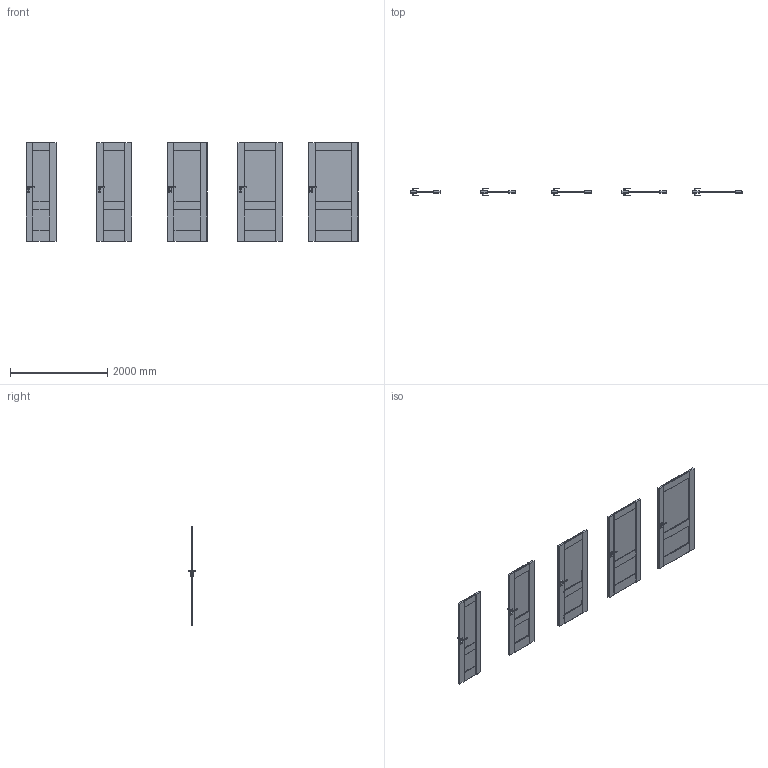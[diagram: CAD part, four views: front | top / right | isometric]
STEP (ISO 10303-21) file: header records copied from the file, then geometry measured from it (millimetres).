
FILE_DESCRIPTION(/* description */ (''),/* implementation_level */ '2;1');
FILE_NAME(/* name */ '049819_A_2-Skrzydło Verte Premium model C polska norma _PN__ bezprzylgowe..stp',/* time_stamp */ '2024-08-27T12:54:19+02:00',/* author */ (''),/* organization */ (''),/* preprocessor_version */ 'ST-DEVELOPER v16',/* originating_system */ 'SIEMENS PLM Software NX 11.0',/* authorisation */ '');
FILE_SCHEMA (('AUTOMOTIVE_DESIGN { 1 0 10303 214 3 1 1 1 }'));
Products named in the file (1): bkni270064BBveuc
Bounding box: 6818 x 153.13 x 2017.01 mm (x, y, z)
Volume: 189135379.8 mm3; surface area: 18773362.4 mm2
Topology: 25 solids, 30 shells, 1710 faces, 4735 edges, 2910 vertices
Faces by surface type: plane 980, cylinder 430, bspline 160, sphere 140
Entity records: 59406 total; most frequent: CARTESIAN_POINT 16479, ORIENTED_EDGE 9190, DIRECTION 8637, EDGE_CURVE 4595, LINE 3015, VECTOR 3015, VERTEX_POINT 2910, AXIS2_PLACEMENT_3D 2811
